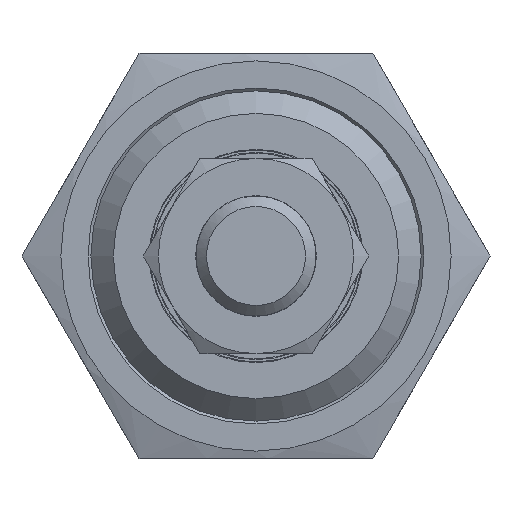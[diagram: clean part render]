
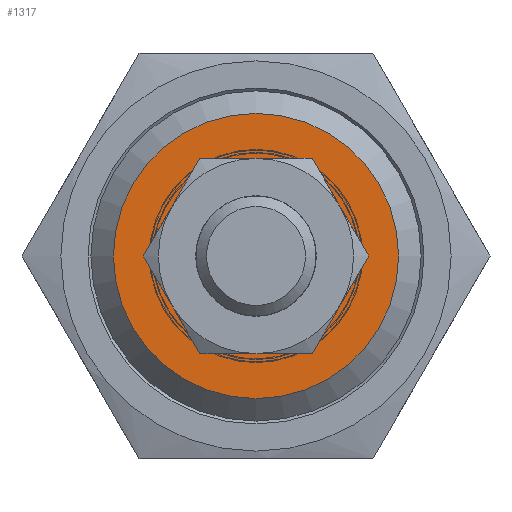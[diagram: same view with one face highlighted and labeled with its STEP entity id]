
A CAD part, front view. The second image highlights one B-rep face of the part: STEP entity #1317.
In plain terms, the highlighted planar face has unit normal (0, -1, 0).
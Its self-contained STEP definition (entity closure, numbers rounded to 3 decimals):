
#219=PLANE('',#2197);
#373=ORIENTED_EDGE('',*,*,#615,.T.);
#374=ORIENTED_EDGE('',*,*,#616,.F.);
#615=EDGE_CURVE('',#760,#760,#871,.T.);
#616=EDGE_CURVE('',#761,#761,#872,.T.);
#760=VERTEX_POINT('',#2899);
#761=VERTEX_POINT('',#2901);
#871=CIRCLE('',#2198,9.5);
#872=CIRCLE('',#2199,6.35);
#1000=EDGE_LOOP('',(#373));
#1001=EDGE_LOOP('',(#374));
#1170=FACE_BOUND('',#1000,.T.);
#1171=FACE_BOUND('',#1001,.T.);
#1317=ADVANCED_FACE('',(#1170,#1171),#219,.T.);
#2197=AXIS2_PLACEMENT_3D('',#2897,#2523,#2524);
#2198=AXIS2_PLACEMENT_3D('',#2898,#2525,#2526);
#2199=AXIS2_PLACEMENT_3D('',#2900,#2527,#2528);
#2523=DIRECTION('',(0.,-1.,0.));
#2524=DIRECTION('',(0.,0.,-1.));
#2525=DIRECTION('',(0.,-1.,0.));
#2526=DIRECTION('',(0.,0.,-1.));
#2527=DIRECTION('',(0.,-1.,0.));
#2528=DIRECTION('',(0.,0.,-1.));
#2897=CARTESIAN_POINT('',(0.,-76.25,5.5));
#2898=CARTESIAN_POINT('',(0.,-76.25,0.));
#2899=CARTESIAN_POINT('',(0.,-76.25,-9.5));
#2900=CARTESIAN_POINT('',(0.,-76.25,0.));
#2901=CARTESIAN_POINT('',(0.,-76.25,-6.35));
